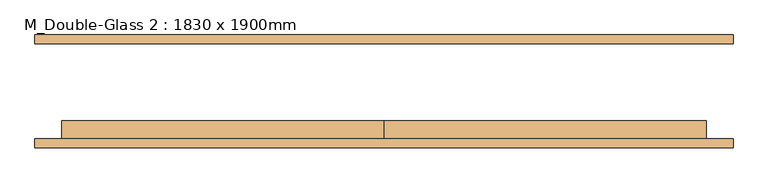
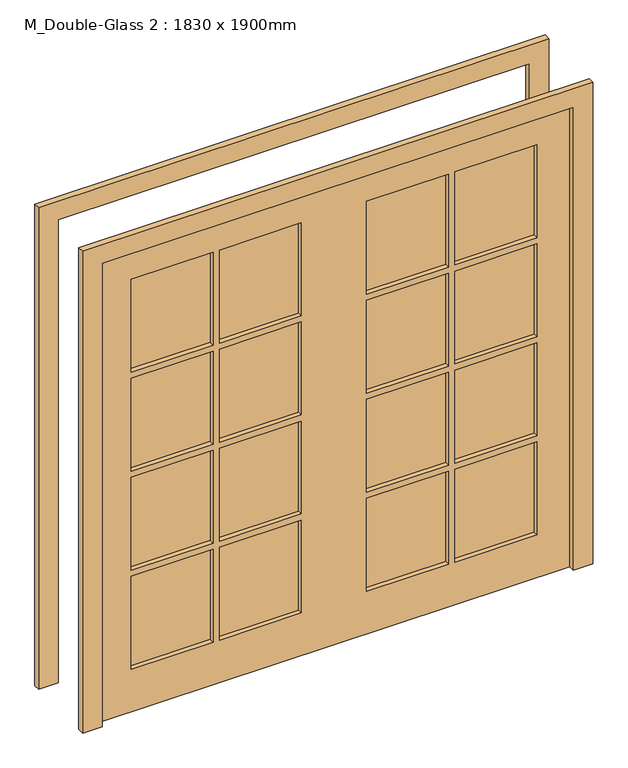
"""IFC4 building model written with IfcOpenShell, lengths in millimetres: door geometry, M_Double-Glass 2 : 1830 x 1900mm."""

from ifc_helpers import new_model, si_unit, frame, origin, place, context, project, spatial, polyline, outline, extrude, source, transform, mapped, element, save


def m_double_glass_2_1830_x_1900mm_b7e8ba81(model_context):
    return source(origin(), model_context, "Body", "SweptSolid", [
        extrude(outline(polyline([(470.0, -115.95), (470.0, -103.25), (788.0, -103.25), (788.0, -115.95), (470.0, -115.95)])), frame((0.0, 0.0, 1393.75), z_axis=(0.0, 0.0, 1.0), x_axis=(1.0, 0.0, 0.0)), (0.0, 0.0, 1.0), 381.25),
        extrude(outline(polyline([(127.0, -115.95), (127.0, -103.25), (445.0, -103.25), (445.0, -115.95), (127.0, -115.95)])), frame((0.0, 0.0, 1393.75), z_axis=(0.0, 0.0, 1.0), x_axis=(1.0, 0.0, 0.0)), (0.0, 0.0, 1.0), 381.25),
        extrude(outline(polyline([(-445.0, -115.95), (-445.0, -103.25), (-127.0, -103.25), (-127.0, -115.95), (-445.0, -115.95)])), frame((0.0, 0.0, 1393.75), z_axis=(0.0, 0.0, 1.0), x_axis=(1.0, 0.0, 0.0)), (0.0, 0.0, 1.0), 381.25),
        extrude(outline(polyline([(-788.0, -115.95), (-788.0, -103.25), (-470.0, -103.25), (-470.0, -115.95), (-788.0, -115.95)])), frame((0.0, 0.0, 1393.75), z_axis=(0.0, 0.0, 1.0), x_axis=(1.0, 0.0, 0.0)), (0.0, 0.0, 1.0), 381.25),
        extrude(outline(polyline([(-788.0, -115.95), (-788.0, -103.25), (-470.0, -103.25), (-470.0, -115.95), (-788.0, -115.95)])), frame((0.0, 0.0, 987.5), z_axis=(0.0, 0.0, 1.0), x_axis=(1.0, 0.0, 0.0)), (0.0, 0.0, 1.0), 381.25),
        extrude(outline(polyline([(-445.0, -115.95), (-445.0, -103.25), (-127.0, -103.25), (-127.0, -115.95), (-445.0, -115.95)])), frame((0.0, 0.0, 987.5), z_axis=(0.0, 0.0, 1.0), x_axis=(1.0, 0.0, 0.0)), (0.0, 0.0, 1.0), 381.25),
        extrude(outline(polyline([(127.0, -115.95), (127.0, -103.25), (445.0, -103.25), (445.0, -115.95), (127.0, -115.95)])), frame((0.0, 0.0, 987.5), z_axis=(0.0, 0.0, 1.0), x_axis=(1.0, 0.0, 0.0)), (0.0, 0.0, 1.0), 381.25),
        extrude(outline(polyline([(470.0, -115.95), (470.0, -103.25), (788.0, -103.25), (788.0, -115.95), (470.0, -115.95)])), frame((0.0, 0.0, 987.5), z_axis=(0.0, 0.0, 1.0), x_axis=(1.0, 0.0, 0.0)), (0.0, 0.0, 1.0), 381.25),
        extrude(outline(polyline([(470.0, -115.95), (470.0, -103.25), (788.0, -103.25), (788.0, -115.95), (470.0, -115.95)])), frame((0.0, 0.0, 581.25), z_axis=(0.0, 0.0, 1.0), x_axis=(1.0, 0.0, 0.0)), (0.0, 0.0, 1.0), 381.25),
        extrude(outline(polyline([(127.0, -115.95), (127.0, -103.25), (445.0, -103.25), (445.0, -115.95), (127.0, -115.95)])), frame((0.0, 0.0, 581.25), z_axis=(0.0, 0.0, 1.0), x_axis=(1.0, 0.0, 0.0)), (0.0, 0.0, 1.0), 381.25),
        extrude(outline(polyline([(-445.0, -115.95), (-445.0, -103.25), (-127.0, -103.25), (-127.0, -115.95), (-445.0, -115.95)])), frame((0.0, 0.0, 581.25), z_axis=(0.0, 0.0, 1.0), x_axis=(1.0, 0.0, 0.0)), (0.0, 0.0, 1.0), 381.25),
        extrude(outline(polyline([(-788.0, -115.95), (-788.0, -103.25), (-470.0, -103.25), (-470.0, -115.95), (-788.0, -115.95)])), frame((0.0, 0.0, 581.25), z_axis=(0.0, 0.0, 1.0), x_axis=(1.0, 0.0, 0.0)), (0.0, 0.0, 1.0), 381.25),
        extrude(outline(polyline([(470.0, -115.95), (470.0, -103.25), (788.0, -103.25), (788.0, -115.95), (470.0, -115.95)])), frame((0.0, 0.0, 175.0), z_axis=(0.0, 0.0, 1.0), x_axis=(1.0, 0.0, 0.0)), (0.0, 0.0, 1.0), 381.25),
        extrude(outline(polyline([(127.0, -115.95), (127.0, -103.25), (445.0, -103.25), (445.0, -115.95), (127.0, -115.95)])), frame((0.0, 0.0, 175.0), z_axis=(0.0, 0.0, 1.0), x_axis=(1.0, 0.0, 0.0)), (0.0, 0.0, 1.0), 381.25),
        extrude(outline(polyline([(-445.0, -115.95), (-445.0, -103.25), (-127.0, -103.25), (-127.0, -115.95), (-445.0, -115.95)])), frame((0.0, 0.0, 175.0), z_axis=(0.0, 0.0, 1.0), x_axis=(1.0, 0.0, 0.0)), (0.0, 0.0, 1.0), 381.25),
        extrude(outline(polyline([(-788.0, -115.95), (-788.0, -103.25), (-470.0, -103.25), (-470.0, -115.95), (-788.0, -115.95)])), frame((0.0, 0.0, 175.0), z_axis=(0.0, 0.0, 1.0), x_axis=(1.0, 0.0, 0.0)), (0.0, 0.0, 1.0), 381.25),
        extrude(outline(polyline([(1900.0, 0.0), (1900.0, -915.0), (0.0, -915.0), (0.0, 0.0), (0.0, 915.0), (1900.0, 915.0), (1900.0, 0.0)]), holes=[polyline([(1775.0, 470.0), (1775.0, 788.0), (1393.75, 788.0), (1393.75, 470.0), (1775.0, 470.0)]), polyline([(1775.0, 127.0), (1775.0, 445.0), (1393.75, 445.0), (1393.75, 127.0), (1775.0, 127.0)]), polyline([(1368.75, 470.0), (1368.75, 788.0), (987.5, 788.0), (987.5, 470.0), (1368.75, 470.0)]), polyline([(1368.75, 127.0), (1368.75, 445.0), (987.5, 445.0), (987.5, 127.0), (1368.75, 127.0)]), polyline([(962.5, 470.0), (962.5, 788.0), (581.25, 788.0), (581.25, 470.0), (962.5, 470.0)]), polyline([(962.5, 127.0), (962.5, 445.0), (581.25, 445.0), (581.25, 127.0), (962.5, 127.0)]), polyline([(556.25, 470.0), (556.25, 788.0), (175.0, 788.0), (175.0, 470.0), (556.25, 470.0)]), polyline([(556.25, 127.0), (556.25, 445.0), (175.0, 445.0), (175.0, 127.0), (556.25, 127.0)]), polyline([(1775.0, -445.0), (1775.0, -127.0), (1393.75, -127.0), (1393.75, -445.0), (1775.0, -445.0)]), polyline([(1368.75, -445.0), (1368.75, -127.0), (987.5, -127.0), (987.5, -445.0), (1368.75, -445.0)]), polyline([(1368.75, -470.0), (987.5, -470.0), (987.5, -788.0), (1368.75, -788.0), (1368.75, -470.0)]), polyline([(962.5, -445.0), (962.5, -127.0), (581.25, -127.0), (581.25, -445.0), (962.5, -445.0)]), polyline([(962.5, -470.0), (581.25, -470.0), (581.25, -788.0), (962.5, -788.0), (962.5, -470.0)]), polyline([(556.25, -445.0), (556.25, -127.0), (175.0, -127.0), (175.0, -445.0), (556.25, -445.0)]), polyline([(556.25, -788.0), (556.25, -470.0), (175.0, -470.0), (175.0, -788.0), (556.25, -788.0)]), polyline([(1393.75, -470.0), (1393.75, -788.0), (1775.0, -788.0), (1775.0, -470.0), (1393.75, -470.0)])]), frame((0.0, -135.0, 0.0), z_axis=(0.0, 1.0, 0.0), x_axis=(0.0, 0.0, 1.0)), (0.0, 0.0, 1.0), 51.0),
        extrude(outline(polyline([(1900.0, -915.0), (1900.0, 915.0), (0.0, 915.0), (0.0, 991.0), (1976.0, 991.0), (1976.0, -991.0), (0.0, -991.0), (0.0, -915.0), (1900.0, -915.0)])), frame((0.0, 135.0, 0.0), z_axis=(0.0, 1.0, 0.0), x_axis=(0.0, 0.0, 1.0)), (0.0, 0.0, 1.0), 25.0),
        extrude(outline(polyline([(1900.0, -915.0), (1900.0, 915.0), (0.0, 915.0), (0.0, 991.0), (1976.0, 991.0), (1976.0, -991.0), (0.0, -991.0), (0.0, -915.0), (1900.0, -915.0)])), frame((0.0, -160.0, 0.0), z_axis=(0.0, 1.0, 0.0), x_axis=(0.0, 0.0, 1.0)), (0.0, 0.0, 1.0), 25.0),
    ])


if __name__ == "__main__":
    model = new_model("IFC4")
    model_context = context("Model", 3, world=origin())
    ifc_project = project(units=[si_unit("LENGTHUNIT", "METRE", prefix="MILLI")], contexts=[model_context])
    site = spatial("IfcSite", under=ifc_project)
    building = spatial("IfcBuilding", under=site)
    placement = place(None, origin())
    m_double_glass_2_1830_x_1900mm_shape = m_double_glass_2_1830_x_1900mm_b7e8ba81(model_context)
    element("IfcDoor", 1, ObjectType="M_Double-Glass 2 : 1830 x 1900mm", at=placement, inside=building, context=model_context, shape_type="MappedRepresentation", body=[
        mapped(m_double_glass_2_1830_x_1900mm_shape, transform((0.0, 0.0, 0.0), x_axis=(1.0, 0.0, 0.0), y_axis=(0.0, 1.0, 0.0), z_axis=(0.0, 0.0, 1.0))),
    ])
    save(model, "model.ifc")
